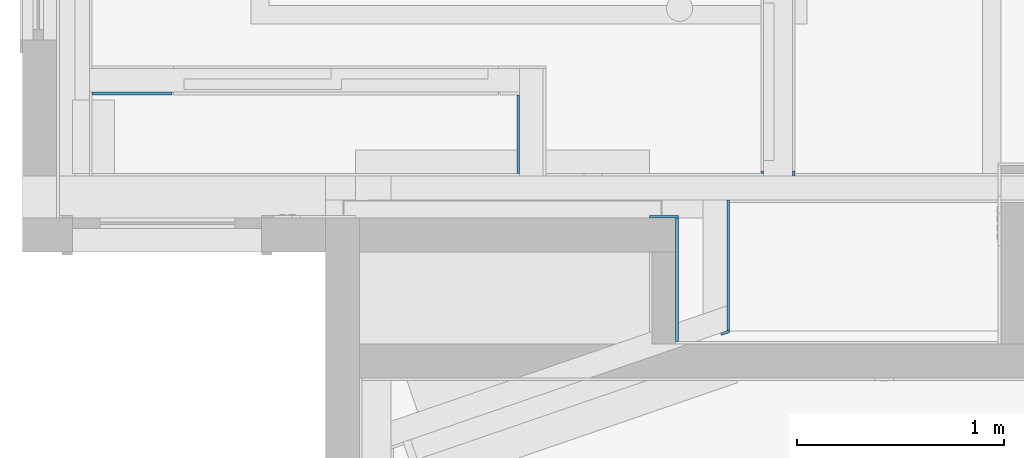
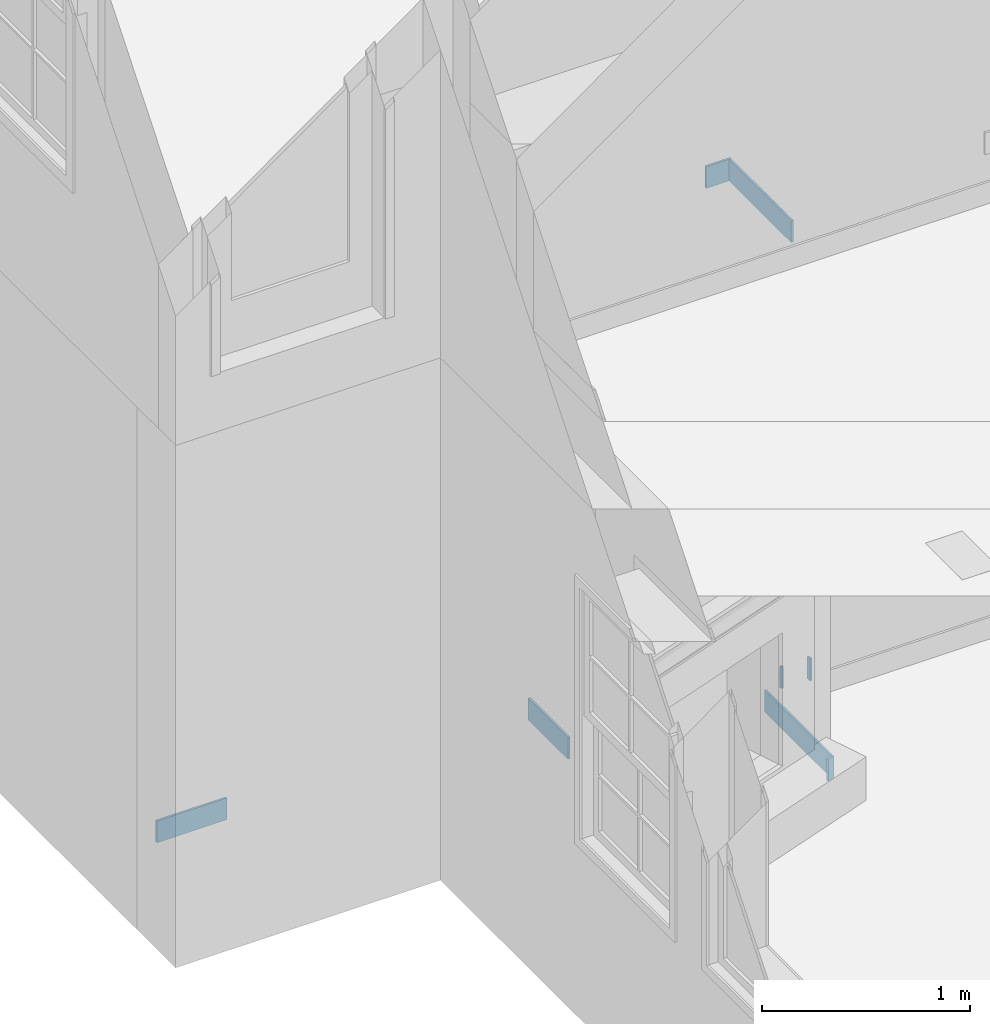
# One storey, part 21 of 81: 8 walls.
"""IFC2X3 building model written with IfcOpenShell, lengths in feet."""

from ifc_helpers import new_model, entity, si_unit, converted_unit, derived_unit, direction, frame, frame_2d, origin, place, context, subcontext, project, spatial, polyline, rectangle, outline, extrude, clip, bounded_halfspace, material, layer, layer_set, layer_usage, type_object, element, save


model = new_model("IFC2X3")

# Units and contexts
model_context = context("Model", 3, precision=0.0001, world=origin(), true_north=direction((6.12303176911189e-17, 1.0)))
body_context = subcontext(model_context, "Body", "Model", "MODEL_VIEW")
ifc_project = project(units=[converted_unit("LENGTHUNIT", "FOOT", entity("IfcRatioMeasure", 0.3048), si_unit("LENGTHUNIT", "METRE"), dimensions=[1, 0, 0, 0, 0, 0, 0]), converted_unit("AREAUNIT", "SQUARE FOOT", entity("IfcRatioMeasure", 0.09290304), si_unit("AREAUNIT", "SQUARE_METRE"), dimensions=[2, 0, 0, 0, 0, 0, 0]), converted_unit("VOLUMEUNIT", "CUBIC FOOT", entity("IfcRatioMeasure", 0.028316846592), si_unit("VOLUMEUNIT", "CUBIC_METRE"), dimensions=[3, 0, 0, 0, 0, 0, 0]), converted_unit("PLANEANGLEUNIT", "DEGREE", entity("IfcRatioMeasure", 0.0174532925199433), si_unit("PLANEANGLEUNIT", "RADIAN"), dimensions=[0, 0, 0, 0, 0, 0, 0]), si_unit("MASSUNIT", "GRAM", prefix="KILO"), derived_unit("MASSDENSITYUNIT", [(si_unit("MASSUNIT", "GRAM", prefix="KILO"), 1), (si_unit("LENGTHUNIT", "METRE"), -3)]), derived_unit("MOMENTOFINERTIAUNIT", [(si_unit("LENGTHUNIT", "METRE"), 4)]), si_unit("TIMEUNIT", "SECOND"), si_unit("FREQUENCYUNIT", "HERTZ"), si_unit("THERMODYNAMICTEMPERATUREUNIT", "DEGREE_CELSIUS"), derived_unit("THERMALTRANSMITTANCEUNIT", [(si_unit("MASSUNIT", "GRAM", prefix="KILO"), 1), (si_unit("THERMODYNAMICTEMPERATUREUNIT", "KELVIN"), -1), (si_unit("TIMEUNIT", "SECOND"), -3)]), derived_unit("VOLUMETRICFLOWRATEUNIT", [(si_unit("LENGTHUNIT", "METRE"), 3), (si_unit("TIMEUNIT", "SECOND"), -1)]), si_unit("ELECTRICCURRENTUNIT", "AMPERE"), si_unit("ELECTRICVOLTAGEUNIT", "VOLT"), si_unit("POWERUNIT", "WATT"), si_unit("FORCEUNIT", "NEWTON"), si_unit("ILLUMINANCEUNIT", "LUX"), si_unit("LUMINOUSFLUXUNIT", "LUMEN"), si_unit("LUMINOUSINTENSITYUNIT", "CANDELA"), derived_unit("USERDEFINED", [(si_unit("MASSUNIT", "GRAM", prefix="KILO"), -1), (si_unit("LENGTHUNIT", "METRE"), -2), (si_unit("TIMEUNIT", "SECOND"), 3), (si_unit("LUMINOUSFLUXUNIT", "LUMEN"), 1)]), derived_unit("LINEARVELOCITYUNIT", [(si_unit("LENGTHUNIT", "METRE"), 1), (si_unit("TIMEUNIT", "SECOND"), -1)]), si_unit("PRESSUREUNIT", "PASCAL"), derived_unit("USERDEFINED", [(si_unit("LENGTHUNIT", "METRE"), -2), (si_unit("MASSUNIT", "GRAM", prefix="KILO"), 1), (si_unit("TIMEUNIT", "SECOND"), -2)]), derived_unit("LINEARFORCEUNIT", [(si_unit("MASSUNIT", "GRAM", prefix="KILO"), 1), (si_unit("LENGTHUNIT", "METRE"), 1), (si_unit("TIMEUNIT", "SECOND"), -2), (si_unit("LENGTHUNIT", "METRE"), -1)]), derived_unit("PLANARFORCEUNIT", [(si_unit("MASSUNIT", "GRAM", prefix="KILO"), 1), (si_unit("LENGTHUNIT", "METRE"), 1), (si_unit("TIMEUNIT", "SECOND"), -2), (si_unit("LENGTHUNIT", "METRE"), -2)])], contexts=[model_context])

# Site, building, storey
site_placement = place(None, origin())
site = spatial("IfcSite", under=ifc_project, at=site_placement, Name="Default", CompositionType="ELEMENT")
building_placement = place(site_placement, origin())
building = spatial("IfcBuilding", under=site, at=building_placement, CompositionType="ELEMENT")
storey_placement = place(building_placement, origin())
storey = spatial("IfcBuildingStorey", under=building, at=storey_placement, Name="First floor", CompositionType="ELEMENT", Elevation=0.0)

# Walls
ifc_material = material(Name="Default New Material")
ifc_layer = layer(ifc_material, 0.0416666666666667)
ifc_layer_set = layer_set([ifc_layer], Name="Basic Wall:Wall Border_T1")
ifc_layer_usage_1 = layer_usage(ifc_layer_set, "AXIS2", "POSITIVE", -0.0208333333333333)
wall_type = type_object("IfcWallType", Name="Basic Wall:Wall Border_T1", PredefinedType="STANDARD", material=ifc_layer_set)
wall_1_placement = place(storey_placement, frame((-9.60416666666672, 32.25, 0.0), z_axis=(0.0, 0.0, 1.0), x_axis=(0.0, 1.0, 0.0)))
element("IfcWallStandardCase", 1, at=wall_1_placement, inside=storey, type_object=wall_type, material=ifc_layer_usage_1, Name="Basic Wall:Wall Border_T1", ObjectType="Basic Wall:Wall Border_T1", context=body_context, shape_type="SweptSolid", body=[
    extrude(rectangle(XDim=0.0833333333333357, YDim=0.0416666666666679, at=frame_2d((0.0416666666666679, 0.0), x_axis=(-1.0, 0.0))), origin(), (0.0, 0.0, 1.0), 0.416666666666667),
])
ifc_layer_usage_2 = layer_usage(ifc_layer_set, "AXIS2", "NEGATIVE", 0.0208333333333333)
wall_2_placement = place(storey_placement, frame((-10.6458333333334, 31.875, 0.0), z_axis=(0.0, 0.0, 1.0), x_axis=(0.0, -1.0, 0.0)))
element("IfcWallStandardCase", 2, at=wall_2_placement, inside=storey, type_object=wall_type, material=ifc_layer_usage_2, Name="Basic Wall:Wall Border_T1", ObjectType="Basic Wall:Wall Border_T1", context=body_context, shape_type="SweptSolid", body=[
    extrude(outline(polyline([(2.08333333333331, -0.0208333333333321), (2.06901041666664, 0.0208333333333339), (0.0416666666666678, 0.020833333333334), (0.0, 0.0208333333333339), (0.0, -0.0208333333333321), (2.08333333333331, -0.0208333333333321)])), origin(), (0.0, 0.0, 1.0), 0.416666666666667),
])
ifc_layer_usage_3 = layer_usage(ifc_layer_set, "AXIS2", "NEGATIVE", 0.0208333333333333)
wall_3_placement = place(storey_placement, frame((-10.6182275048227, 29.7862877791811, 0.0), z_axis=(0.0, 0.0, 1.0), x_axis=(-0.945686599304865, -0.325079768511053, 0.0)))
element("IfcWallStandardCase", 3, at=wall_3_placement, inside=storey, type_object=wall_type, material=ifc_layer_usage_3, Name="Basic Wall:Wall Border_T1", ObjectType="Basic Wall:Wall Border_T1", context=body_context, shape_type="SweptSolid", body=[
    extrude(outline(polyline([(0.148185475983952, -0.0208333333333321), (0.148185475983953, 0.0208333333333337), (0.014322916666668, 0.0208333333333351), (0.0, -0.0208333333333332), (0.0440596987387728, -0.0208333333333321), (0.148185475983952, -0.0208333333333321)])), origin(), (0.0, 0.0, 1.0), 0.416666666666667),
])
ifc_layer_usage_4 = layer_usage(ifc_layer_set, "AXIS2", "NEGATIVE", 0.0208333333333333)
wall_4_placement = place(storey_placement, frame((-13.9791666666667, 32.2916666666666, 0.0), z_axis=(0.0, 0.0, 1.0), x_axis=(0.0, 1.0, 0.0)))
element("IfcWallStandardCase", 4, at=wall_4_placement, inside=storey, type_object=wall_type, material=ifc_layer_usage_4, Name="Basic Wall:Wall Border_T1", ObjectType="Basic Wall:Wall Border_T1", context=body_context, shape_type="Clipping", body=[
    clip(clip(extrude(rectangle(XDim=1.25000000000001, YDim=0.0416666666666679, at=frame_2d((0.625000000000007, -5.55111512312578e-17), x_axis=(-1.0, 0.0))), origin(), (0.0, 0.0, 1.0), 0.416666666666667), bounded_halfspace(frame((1.25000000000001, -0.0208333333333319, 0.416666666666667), z_axis=(-1.0, 0.0, 0.0), x_axis=(0.0, -1.0, 0.0)), True, frame((1.25000000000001, -0.0208333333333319, 0.416666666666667), z_axis=(-1.0, 0.0, 0.0), x_axis=(0.0, -1.0, 0.0)), polyline([(0.0, 0.0), (-0.0416666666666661, 0.0), (-0.0416666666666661, -0.416666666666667), (0.0, -0.416666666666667), (0.0, 0.0)]))), bounded_halfspace(frame((0.0, -0.0208333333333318, 0.0), z_axis=(1.0, 0.0, 0.0), x_axis=(0.0, 1.0, 0.0)), True, frame((0.0, -0.0208333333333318, 0.0), z_axis=(1.0, 0.0, 0.0), x_axis=(0.0, 1.0, 0.0)), polyline([(0.0, 0.0), (0.0416666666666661, 0.0), (0.0416666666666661, 0.416666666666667), (0.0, 0.416666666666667), (0.0, 0.0)]))),
])
ifc_layer_usage_5 = layer_usage(ifc_layer_set, "AXIS2", "NEGATIVE", 0.0208333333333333)
wall_5_placement = place(storey_placement, frame((-19.4791666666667, 33.5625, 0.0), z_axis=(0.0, 0.0, 1.0), x_axis=(-1.0, 0.0, 0.0)))
element("IfcWallStandardCase", 5, at=wall_5_placement, inside=storey, type_object=wall_type, material=ifc_layer_usage_5, Name="Basic Wall:Wall Border_T1", ObjectType="Basic Wall:Wall Border_T1", context=body_context, shape_type="SweptSolid", body=[
    extrude(rectangle(XDim=1.27083333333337, YDim=0.0416666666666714, at=frame_2d((0.635416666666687, 0.0), x_axis=(-1.0, 0.0))), origin(), (0.0, 0.0, 1.0), 0.416666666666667),
])
ifc_layer_usage_6 = layer_usage(ifc_layer_set, "AXIS2", "POSITIVE", -0.0208333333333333)
wall_6_placement = place(storey_placement, frame((-10.1041666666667, 32.3333333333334, 0.0), z_axis=(0.0, 0.0, 1.0), x_axis=(0.0, -1.0, 0.0)))
element("IfcWallStandardCase", 6, at=wall_6_placement, inside=storey, type_object=wall_type, material=ifc_layer_usage_6, Name="Basic Wall:Wall Border_T1", ObjectType="Basic Wall:Wall Border_T1", context=body_context, shape_type="Clipping", body=[
    clip(extrude(rectangle(XDim=0.0416666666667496, YDim=0.0416666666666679, at=frame_2d((0.0208333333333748, 0.0), x_axis=(-1.0, 0.0))), origin(), (0.0, 0.0, 1.0), 0.416666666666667), bounded_halfspace(frame((0.0416666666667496, -0.0208333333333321, 0.416666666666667), z_axis=(-1.0, 0.0, 0.0), x_axis=(0.0, -1.0, 0.0)), True, frame((0.0416666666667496, -0.0208333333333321, 0.416666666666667), z_axis=(-1.0, 0.0, 0.0), x_axis=(0.0, -1.0, 0.0)), polyline([(0.0, 0.0), (-0.0416666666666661, 0.0), (-0.0416666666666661, -0.416666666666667), (0.0, -0.416666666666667), (0.0, 0.0)]))),
])
ifc_layer_usage_7 = layer_usage(ifc_layer_set, "AXIS2", "NEGATIVE", 0.0208333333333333)
wall_7_placement = place(storey_placement, frame((-11.4583333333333, 29.625, 10.6666666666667), z_axis=(0.0, 0.0, 1.0), x_axis=(0.0, 1.0, 0.0)))
element("IfcWallStandardCase", 7, at=wall_7_placement, inside=storey, type_object=wall_type, material=ifc_layer_usage_7, Name="Basic Wall:Wall Border_T1", ObjectType="Basic Wall:Wall Border_T1", context=body_context, shape_type="SweptSolid", body=[
    extrude(rectangle(XDim=1.95833333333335, YDim=0.0416666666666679, at=frame_2d((0.979166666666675, 2.77555756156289e-17), x_axis=(-1.0, 0.0))), origin(), (0.0, 0.0, 1.0), 0.416666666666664),
])
ifc_layer_usage_8 = layer_usage(ifc_layer_set, "AXIS2", "NEGATIVE", 0.0208333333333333)
wall_8_placement = place(storey_placement, frame((-11.4375, 31.6041666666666, 10.6666666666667), z_axis=(0.0, 0.0, 1.0), x_axis=(-1.0, 0.0, 0.0)))
element("IfcWallStandardCase", 8, at=wall_8_placement, inside=storey, type_object=wall_type, material=ifc_layer_usage_8, Name="Basic Wall:Wall Border_T1", ObjectType="Basic Wall:Wall Border_T1", context=body_context, shape_type="SweptSolid", body=[
    extrude(rectangle(XDim=0.458322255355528, YDim=0.0416666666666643, at=frame_2d((0.229161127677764, 0.0), x_axis=(-1.0, 0.0))), origin(), (0.0, 0.0, 1.0), 0.416666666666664),
])

save(model, "model.ifc")
